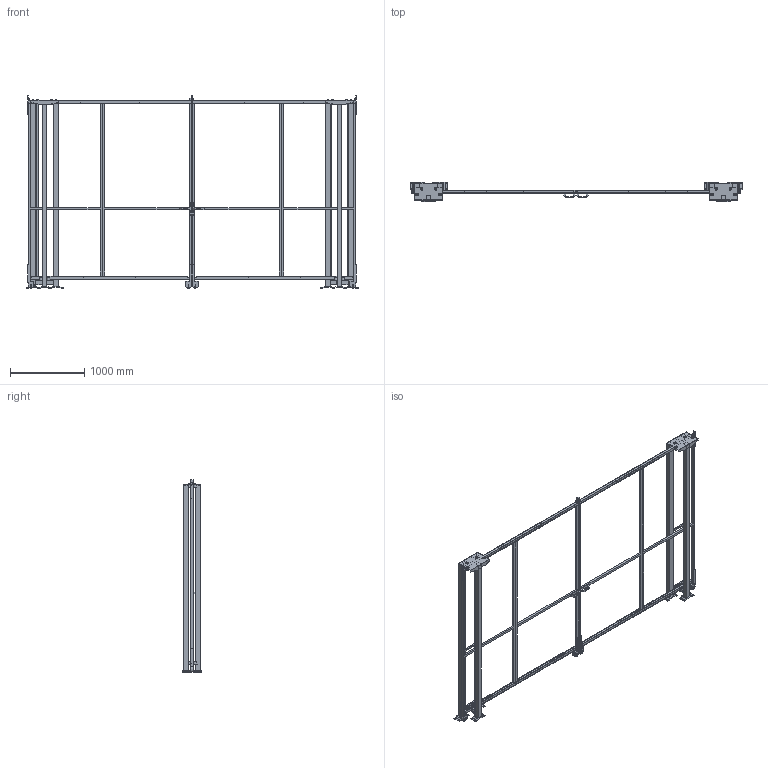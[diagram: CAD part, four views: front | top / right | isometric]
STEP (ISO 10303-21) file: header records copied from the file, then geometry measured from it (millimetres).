
FILE_DESCRIPTION(/* description */ (''),/* implementation_level */ '2;1');
FILE_NAME(/* name */ 'C:\SafeGuarding\ELABORATI\KLADKA2KR_2025-03-25-13-25-53.stp',/* time_stamp */ '2025-03-25T13:25:58+01:00',/* author */ ('admin'),/* organization */ (''),/* preprocessor_version */ 'ST-DEVELOPER v18.1',/* originating_system */ 'AutoCAD Mechanical',/* authorisation */ '');
FILE_SCHEMA (('AUTOMOTIVE_DESIGN { 1 0 10303 214 3 1 1 }'));
Length unit declared in the file: millimetre
Products named in the file (5): Product; VFPA.REPE30.10002400; VFPA.REPE30.12002400; VFPA.REPE2002502400; P_VFMA.V260SDU.2520
Assembly tree (12 placements, depth 2):
  Product
    VFPA.REPE30.10002400  x2
    VFPA.REPE30.12002400  x2
    P_VFMA.V260SDU.2520  x6
    VFPA.REPE2002502400  x2
Bounding box: 4471.38 x 264 x 2590.02 mm (x, y, z)
Volume: 93628353.5 mm3; surface area: 12751247.5 mm2
Topology: 84 solids, 106 shells, 850 faces, 2837 edges, 2845 vertices
Faces by surface type: plane 774, cylinder 76
Full cylindrical faces by diameter (mm): 9 x8, 11 x24, 13 x8, 14 x4, 30 x12, 36 x16, 80 x4
Entity records: 22968 total; most frequent: CARTESIAN_POINT 4885, DIRECTION 3484, ORIENTED_EDGE 3228, EDGE_CURVE 1712, LINE 1648, VECTOR 1648, VERTEX_POINT 1220, AXIS2_PLACEMENT_3D 918
